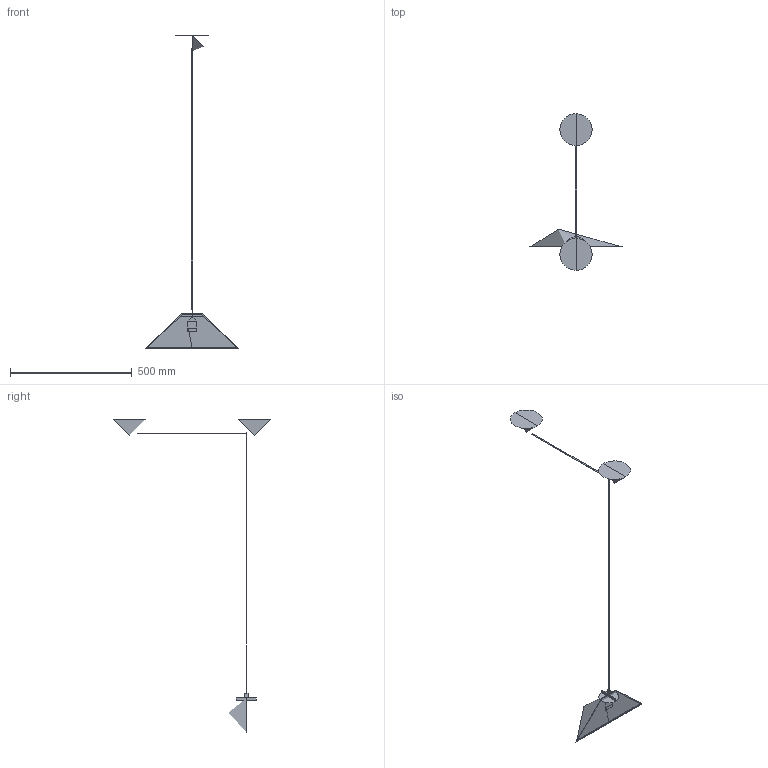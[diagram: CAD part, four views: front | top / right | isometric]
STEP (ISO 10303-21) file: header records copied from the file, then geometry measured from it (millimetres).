
FILE_DESCRIPTION(/* description */ (''),/* implementation_level */ '2;1');
FILE_NAME(/* name */ 'aggregato decen d38',/* time_stamp */ '2016-04-29T16:31:37+02:00',/* author */ (''),/* organization */ (''),/* preprocessor_version */ 'ST-DEVELOPER v15',/* originating_system */ '',/* authorisation */ '');
FILE_SCHEMA (('AUTOMOTIVE_DESIGN'));
Length unit declared in the file: millimetre
Products named in the file (2): Document; Blocco 01 01
Assembly tree (1 placements, depth 2):
  Document
    Blocco 01 01
Bounding box: 382 x 643.42 x 1286.84 mm (x, y, z)
Surface area: 455659.7 mm2 (no closed solid volume)
Topology: 0 solids, 38 shells, 46 faces, 171 edges, 150 vertices
Faces by surface type: bspline 34, plane 12
Entity records: 2508 total; most frequent: CARTESIAN_POINT 1641, ORIENTED_EDGE 174, EDGE_CURVE 158, VERTEX_POINT 143, EDGE_LOOP 49, ADVANCED_FACE 46, FACE_OUTER_BOUND 46, PRESENTATION_LAYER_ASSIGNMENT 45
